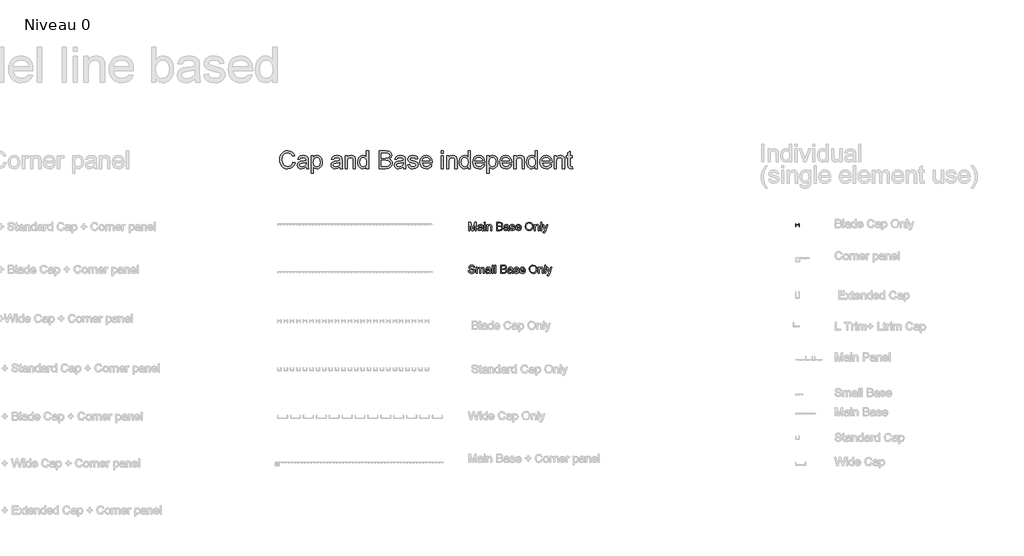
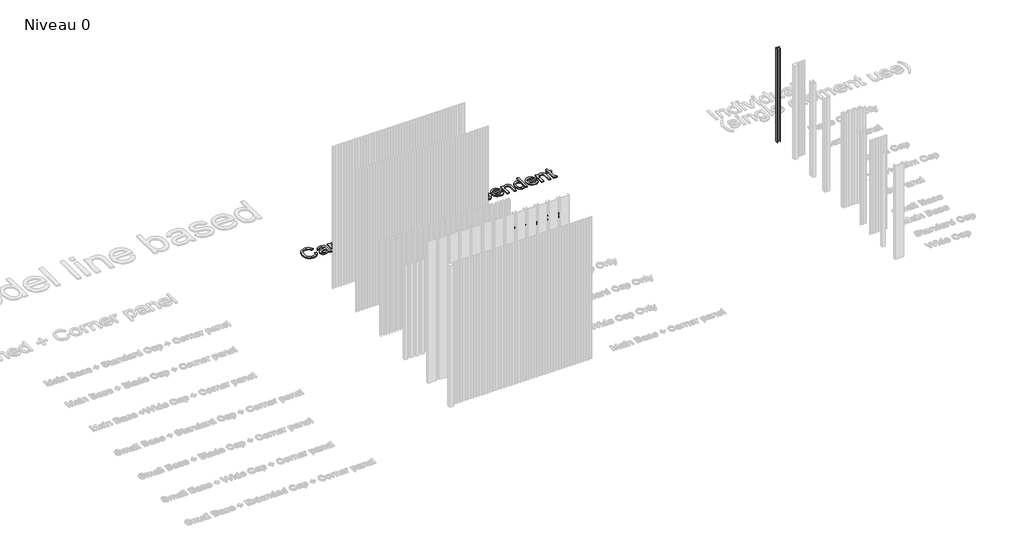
# One storey, part 24 of 25: 4 proxies.
"""IFC4 building model written with IfcOpenShell, lengths in millimetres."""

from ifc_helpers import new_model, si_unit, origin, origin_with_axes, place, context, project, spatial, polyline, outline, extrude, transform, mapped, element, save
from components import a_gen_blade_cap_a_gen_blade_cap_4d5c02d1

model = new_model("IFC4")

# Units and contexts
model_context = context("Model", 3, world=origin())
ifc_project = project(units=[si_unit("LENGTHUNIT", "METRE", prefix="MILLI")], contexts=[model_context])

# Site, building, storey
site = spatial("IfcSite", under=ifc_project)
building = spatial("IfcBuilding", under=site)
storey = spatial("IfcBuildingStorey", under=building, Name="Niveau 0", Elevation=0.0)

# Proxies
placement = place(None, origin())
element("IfcBuildingElementProxy", 1, Name="150 mm Arial", ObjectType="150 mm Arial", at=placement, inside=storey, context=model_context, shape_type="SweptSolid", body=[
    extrude(outline(polyline([(6899.092666, 5099.4454374), (6917.9282242, 5094.5893951), (6909.237012, 5072.6406355), (6895.5977871, 5056.6055791), (6877.6819339, 5046.7969254), (6856.1608372, 5043.5273741), (6834.3132452, 5046.0013806), (6816.9630106, 5053.4233998), (6803.6640765, 5065.5359145), (6793.9703859, 5082.0814072), (6788.0520843, 5101.5331677), (6786.0793171, 5122.3644857), (6788.3096017, 5144.3362379), (6795.0004555, 5163.3097518), (6805.8023906, 5178.6826207), (6820.3659191, 5189.8524377), (6837.6379787, 5196.6536561), (6856.5655074, 5198.9207289), (6877.2174829, 5195.98687), (6894.291806, 5187.1852933), (6907.2550478, 5173.0586246), (6915.5737794, 5154.1494901), (6896.7382213, 5149.6613298), (6890.2083158, 5163.3971238), (6881.2871775, 5172.8195014), (6869.8644415, 5178.2687534), (6855.8297434, 5180.0851708), (6839.6521327, 5178.0710168), (6826.3623956, 5172.0285551), (6816.2778304, 5162.5923819), (6809.7157353, 5150.3970937), (6804.9148753, 5122.4012739), (6806.3358195, 5105.0004555), (6810.5986521, 5089.9540819), (6817.8643215, 5077.8369687), (6828.2937761, 5069.2239315), (6840.7971654, 5064.0781821), (6854.284639, 5062.3629323), (6870.0069958, 5064.698983), (6883.1081933, 5071.707135), (6892.9996205, 5083.3138119), (6899.092666, 5099.4454374)])), origin_with_axes(), (0.0, 0.0, 1.0), 10.0),
    extrude(outline(polyline([(7012.1060149, 5060.0084875), (6993.8406739, 5047.2429823), (6973.6623465, 5043.5273741), (6957.9215956, 5045.7622573), (6946.3103201, 5052.4669066), (6939.1504168, 5062.6480408), (6936.7637823, 5075.3123785), (6940.3690259, 5090.2115993), (6949.8419873, 5101.02733), (6963.0305568, 5107.2077475), (6979.3277292, 5110.0404389), (7011.9956503, 5116.515162), (7012.1060149, 5120.7090167), (7010.8092309, 5129.1151203), (7006.9188788, 5134.6149562), (6998.2184696, 5138.6984463), (6986.0967579, 5140.0596097), (6967.0404705, 5136.435972), (6957.9537853, 5123.5784963), (6939.1182271, 5125.9329411), (6947.2668133, 5144.3270408), (6963.6743503, 5155.1059833), (6988.5247791, 5158.8951678), (7011.3518569, 5155.5474417), (7024.2461208, 5147.1413381), (7030.0218681, 5134.3574388), (7030.9415731, 5117.8763254), (7030.9415731, 5094.4422423), (7031.8980663, 5061.7191388), (7035.6504626, 5045.8818189), (7016.8149045, 5045.8818189), (7012.1060149, 5060.0084875)]), holes=[polyline([(7012.1060149, 5097.6796038), (6981.7189621, 5091.9038565), (6965.5137603, 5088.850436), (6958.1745145, 5083.884029), (6955.5993405, 5076.6367537), (6961.2095409, 5066.4464224), (6977.6722602, 5062.3629323), (6996.7285475, 5066.8694867), (7009.0158062, 5077.7771879), (7011.9956503, 5092.3453149), (7012.1060149, 5097.6796038)])]), origin_with_axes(), (0.0, 0.0, 1.0), 10.0),
    extrude(outline(polyline([(7056.8404656, 5003.5018131), (7056.8404656, 5156.5407231), (7075.6760237, 5156.5407231), (7075.6760237, 5138.0730469), (7088.6990463, 5153.6896376), (7106.2838057, 5158.8951678), (7119.0217198, 5157.074152), (7130.1593472, 5151.6111043), (7139.2276384, 5142.8371187), (7145.7575438, 5131.083289), (7151.0182563, 5102.0573996), (7149.5329328, 5085.9487667), (7145.0769621, 5071.5415881), (7137.7928986, 5059.5670291), (7127.8232965, 5050.7562554), (7116.2120211, 5045.3345944), (7104.0029373, 5043.5273741), (7087.6137945, 5048.3650224), (7075.6760237, 5060.5970987), (7075.6760237, 5003.5018131), (7056.8404656, 5003.5018131)]), holes=[polyline([(7075.6760237, 5100.3283542), (7077.7131703, 5083.4425706), (7083.8246099, 5071.6335586), (7092.8423173, 5064.6805889), (7103.5982671, 5062.3629323), (7114.5289609, 5064.7633623), (7123.7765946, 5071.9646524), (7130.0811723, 5084.2059258), (7132.1826982, 5101.7263058), (7130.1317561, 5118.5201189), (7123.9789297, 5130.4946778), (7114.9750178, 5137.6683767), (7104.3708193, 5140.0596097), (7093.7252341, 5137.5166254), (7084.3764329, 5129.8876725), (7077.851126, 5117.4118744), (7075.6760237, 5100.3283542)])]), origin_with_axes(), (0.0, 0.0, 1.0), 10.0),
    extrude(outline(polyline([(7301.7027216, 5060.0084875), (7283.4373805, 5047.2429823), (7263.2590531, 5043.5273741), (7247.5183022, 5045.7622573), (7235.9070267, 5052.4669066), (7228.7471234, 5062.6480408), (7226.3604889, 5075.3123785), (7229.9657325, 5090.2115993), (7239.4386939, 5101.02733), (7252.6272634, 5107.2077475), (7268.9244358, 5110.0404389), (7301.592357, 5116.515162), (7301.7027216, 5120.7090167), (7300.4059375, 5129.1151203), (7296.5155854, 5134.6149562), (7287.8151762, 5138.6984463), (7275.6934645, 5140.0596097), (7256.6371771, 5136.435972), (7247.5504919, 5123.5784963), (7228.7149337, 5125.9329411), (7236.8635199, 5144.3270408), (7253.2710569, 5155.1059833), (7278.1214857, 5158.8951678), (7300.9485635, 5155.5474417), (7313.8428274, 5147.1413381), (7319.6185747, 5134.3574388), (7320.5382797, 5117.8763254), (7320.5382797, 5094.4422423), (7321.4947729, 5061.7191388), (7325.2471692, 5045.8818189), (7306.4116111, 5045.8818189), (7301.7027216, 5060.0084875)]), holes=[polyline([(7301.7027216, 5097.6796038), (7271.3156687, 5091.9038565), (7255.1104669, 5088.850436), (7247.7712211, 5083.884029), (7245.1960471, 5076.6367537), (7250.8062475, 5066.4464224), (7267.2689668, 5062.3629323), (7286.3252542, 5066.8694867), (7298.6125128, 5077.7771879), (7301.592357, 5092.3453149), (7301.7027216, 5097.6796038)])]), origin_with_axes(), (0.0, 0.0, 1.0), 10.0),
    extrude(outline(polyline([(7346.4371722, 5045.8818189), (7346.4371722, 5156.5407231), (7365.2727303, 5156.5407231), (7365.2727303, 5141.0896793), (7379.6753104, 5154.4437957), (7399.3386031, 5158.8951678), (7417.1256975, 5155.3083184), (7429.2658034, 5145.8905393), (7434.912792, 5132.0397822), (7435.9060734, 5113.8296234), (7435.9060734, 5045.8818189), (7417.0705152, 5045.8818189), (7417.0705152, 5111.2912377), (7414.9000115, 5127.956292), (7407.2296719, 5136.7670658), (7394.2986197, 5140.0596097), (7383.2667584, 5138.2110027), (7373.8627749, 5132.6651816), (7367.4202415, 5121.9506185), (7365.2727303, 5104.5957853), (7365.2727303, 5045.8818189), (7346.4371722, 5045.8818189)])), origin_with_axes(), (0.0, 0.0, 1.0), 10.0),
    extrude(outline(polyline([(7530.0838642, 5045.8818189), (7530.0838642, 5063.6505193), (7517.6218616, 5048.5581604), (7500.3957871, 5043.5273741), (7488.2188931, 5045.34839), (7477.0720687, 5050.8114377), (7467.6358955, 5059.5348395), (7460.5909553, 5071.1369179), (7456.2039625, 5085.1486234), (7454.7416315, 5101.1009064), (7460.1311028, 5131.083289), (7466.8633433, 5142.9750745), (7476.2811224, 5151.7214689), (7487.6716686, 5157.1017431), (7500.3222107, 5158.8951678), (7517.6862409, 5153.763214), (7530.0838642, 5140.4274917), (7530.0838642, 5196.5662841), (7548.9194223, 5196.5662841), (7548.9194223, 5045.8818189), (7530.0838642, 5045.8818189)]), holes=[polyline([(7473.5771897, 5101.1744828), (7475.7017082, 5084.1369479), (7482.0752638, 5072.0198347), (7491.336693, 5064.7771579), (7502.1248325, 5062.3629323), (7512.9083735, 5064.6667933), (7521.935278, 5071.5783763), (7528.0467176, 5083.22644), (7530.0838642, 5099.739743), (7528.0099294, 5117.7935519), (7521.7881252, 5130.3107368), (7512.5312945, 5137.6223915), (7501.3522803, 5140.0596097), (7490.4537762, 5137.7189605), (7481.5234408, 5130.6970129), (7475.5637525, 5118.635082), (7473.5771897, 5101.1744828)])]), origin_with_axes(), (0.0, 0.0, 1.0), 10.0),
    extrude(outline(polyline([(7638.3883235, 5045.8818189), (7638.3883235, 5196.5662841), (7695.8882794, 5196.5662841), (7724.0496461, 5192.1333061), (7733.5134104, 5186.5093101), (7740.6779123, 5178.5032782), (7746.6927829, 5159.2262616), (7741.6344055, 5141.6231082), (7726.3489086, 5128.2873858), (7737.022085, 5122.7139736), (7744.9085552, 5114.2342936), (7749.7783932, 5103.4093659), (7751.4016725, 5090.8002105), (7746.9686944, 5070.5483067), (7735.9874169, 5056.1273325), (7719.598274, 5048.475387), (7695.446821, 5045.8818189), (7638.3883235, 5045.8818189)]), holes=[polyline([(7657.2238817, 5064.7173771), (7695.8514912, 5064.7173771), (7709.831007, 5065.4531411), (7721.6584131, 5069.5550253), (7729.4942996, 5077.9243407), (7732.5661143, 5090.6162695), (7728.9608707, 5105.2579729), (7717.2806174, 5113.9951703), (7694.0120812, 5116.515162), (7657.2238817, 5116.515162), (7657.2238817, 5064.7173771)]), polyline([(7657.2238817, 5135.3507201), (7691.6208482, 5135.3507201), (7711.7072052, 5136.9694009), (7723.7921287, 5143.9407647), (7727.8572248, 5156.2096293), (7724.0680402, 5168.4968879), (7713.2155214, 5175.7625573), (7689.0088861, 5177.730726), (7657.2238817, 5177.730726), (7657.2238817, 5135.3507201)])]), origin_with_axes(), (0.0, 0.0, 1.0), 10.0),
    extrude(outline(polyline([(7845.5794632, 5060.0084875), (7827.3141222, 5047.2429823), (7807.1357947, 5043.5273741), (7791.3950439, 5045.7622573), (7779.7837684, 5052.4669066), (7772.6238651, 5062.6480408), (7770.2372306, 5075.3123785), (7773.8424742, 5090.2115993), (7783.3154355, 5101.02733), (7796.5040051, 5107.2077475), (7812.8011775, 5110.0404389), (7845.4690986, 5116.515162), (7845.5794632, 5120.7090167), (7844.2826792, 5129.1151203), (7840.3923271, 5134.6149562), (7831.6919179, 5138.6984463), (7819.5702062, 5140.0596097), (7800.5139188, 5136.435972), (7791.4272335, 5123.5784963), (7772.5916754, 5125.9329411), (7780.7402616, 5144.3270408), (7797.1477986, 5155.1059833), (7821.9982273, 5158.8951678), (7844.8253051, 5155.5474417), (7857.7195691, 5147.1413381), (7863.4953164, 5134.3574388), (7864.4150214, 5117.8763254), (7864.4150214, 5094.4422423), (7865.3715146, 5061.7191388), (7869.1239109, 5045.8818189), (7850.2883528, 5045.8818189), (7845.5794632, 5060.0084875)]), holes=[polyline([(7845.5794632, 5097.6796038), (7815.1924104, 5091.9038565), (7798.9872085, 5088.850436), (7791.6479627, 5083.884029), (7789.0727888, 5076.6367537), (7794.6829892, 5066.4464224), (7811.1457085, 5062.3629323), (7830.2019958, 5066.8694867), (7842.4892545, 5077.7771879), (7845.4690986, 5092.3453149), (7845.5794632, 5097.6796038)])]), origin_with_axes(), (0.0, 0.0, 1.0), 10.0),
    extrude(outline(polyline([(7883.2505795, 5078.8440457), (7902.0861377, 5081.1984905), (7905.0567848, 5073.1418748), (7910.804941, 5067.2189746), (7930.7809333, 5062.3629323), (7949.9843735, 5066.8143044), (7956.2383674, 5077.2621531), (7954.6656718, 5082.0630131), (7949.9475853, 5085.723439), (7930.5602041, 5091.0945161), (7902.1965023, 5100.3099601), (7889.8172731, 5111.0705085), (7885.6050243, 5126.2640349), (7888.9895387, 5140.298733), (7898.2233767, 5151.0224931), (7910.1979357, 5156.5959054), (7926.4031376, 5158.8951678), (7949.3221859, 5155.1979538), (7963.8903129, 5145.1915635), (7970.365036, 5128.2873858), (7951.5294778, 5125.9329411), (7944.4477494, 5136.3256074), (7927.8746655, 5140.0596097), (7909.8484478, 5136.4911543), (7904.4405824, 5128.1770212), (7906.6846626, 5122.6955795), (7913.7112087, 5118.538513), (7929.9348047, 5114.5285992), (7957.5811367, 5105.6626431), (7970.4202183, 5095.6194647), (7975.0739255, 5079.2487159), (7969.6108779, 5061.2224981), (7953.8471344, 5048.1442932), (7930.5234159, 5043.5273741), (7911.5315079, 5045.7530602), (7897.6715537, 5052.4301184), (7888.4193216, 5063.4849724), (7883.2505795, 5078.8440457)])), origin_with_axes(), (0.0, 0.0, 1.0), 10.0),
    extrude(outline(polyline([(8073.7398766, 5078.8440457), (8092.2075528, 5076.4896009), (8085.5534872, 5062.5744644), (8074.9354931, 5052.172601), (8060.5926938, 5045.6886809), (8042.7642126, 5043.5273741), (8020.6637018, 5047.2567779), (8003.6583565, 5058.4449891), (7992.8150347, 5076.3654407), (7989.2005941, 5100.291566), (7992.8518229, 5125.0224331), (8003.8055093, 5143.5177004), (8020.5809283, 5155.050801), (8041.6973548, 5158.8951678), (8062.1561923, 5155.059998), (8078.5039485, 5143.5544886), (8089.2231101, 5125.0960095), (8092.796164, 5100.4019306), (8092.6857994, 5095.3251591), (8008.0361523, 5095.3251591), (8011.2965065, 5081.2260816), (8018.870277, 5070.8610064), (8029.8009708, 5064.4874508), (8043.1320946, 5062.3629323), (8061.5997708, 5066.2992696), (8073.7398766, 5078.8440457)]), holes=[polyline([(8008.0361523, 5114.1607172), (8073.9606058, 5114.1607172), (8071.413023, 5124.1119252), (8066.4190249, 5131.2304418), (8055.4377474, 5137.8523177), (8041.6237785, 5140.0596097), (8028.9272511, 5138.2983746), (8018.4288187, 5133.0146695), (8011.1309596, 5124.7787113), (8008.0361523, 5114.1607172)])]), origin_with_axes(), (0.0, 0.0, 1.0), 10.0),
    extrude(outline(polyline([(8170.4928414, 5045.8818189), (8170.4928414, 5156.5407231), (8189.3283995, 5156.5407231), (8189.3283995, 5045.8818189), (8170.4928414, 5045.8818189)])), origin_with_axes(), (0.0, 0.0, 1.0), 10.0),
    extrude(outline(polyline([(8170.4928414, 5177.730726), (8170.4928414, 5196.5662841), (8189.3283995, 5196.5662841), (8189.3283995, 5177.730726), (8170.4928414, 5177.730726)])), origin_with_axes(), (0.0, 0.0, 1.0), 10.0),
    extrude(outline(polyline([(8217.5817367, 5045.8818189), (8217.5817367, 5156.5407231), (8236.4172949, 5156.5407231), (8236.4172949, 5141.0896793), (8250.819875, 5154.4437957), (8270.4831676, 5158.8951678), (8288.2702621, 5155.3083184), (8300.410368, 5145.8905393), (8306.0573566, 5132.0397822), (8307.050638, 5113.8296234), (8307.050638, 5045.8818189), (8288.2150798, 5045.8818189), (8288.2150798, 5111.2912377), (8286.044576, 5127.956292), (8278.3742364, 5136.7670658), (8265.4431843, 5140.0596097), (8254.411323, 5138.2110027), (8245.0073395, 5132.6651816), (8238.564806, 5121.9506185), (8236.4172949, 5104.5957853), (8236.4172949, 5045.8818189), (8217.5817367, 5045.8818189)])), origin_with_axes(), (0.0, 0.0, 1.0), 10.0),
    extrude(outline(polyline([(8401.2284287, 5045.8818189), (8401.2284287, 5063.6505193), (8388.7664261, 5048.5581604), (8371.5403517, 5043.5273741), (8359.3634577, 5045.34839), (8348.2166332, 5050.8114377), (8338.7804601, 5059.5348395), (8331.7355198, 5071.1369179), (8327.3485271, 5085.1486234), (8325.8861961, 5101.1009064), (8331.2756674, 5131.083289), (8338.0079079, 5142.9750745), (8347.4256869, 5151.7214689), (8358.8162332, 5157.1017431), (8371.4667753, 5158.8951678), (8388.8308055, 5153.763214), (8401.2284287, 5140.4274917), (8401.2284287, 5196.5662841), (8420.0639869, 5196.5662841), (8420.0639869, 5045.8818189), (8401.2284287, 5045.8818189)]), holes=[polyline([(8344.7217543, 5101.1744828), (8346.8462728, 5084.1369479), (8353.2198284, 5072.0198347), (8362.4812576, 5064.7771579), (8373.2693971, 5062.3629323), (8384.0529381, 5064.6667933), (8393.0798425, 5071.5783763), (8399.1912822, 5083.22644), (8401.2284287, 5099.739743), (8399.154494, 5117.7935519), (8392.9326897, 5130.3107368), (8383.675859, 5137.6223915), (8372.4968449, 5140.0596097), (8361.5983408, 5137.7189605), (8352.6680054, 5130.6970129), (8346.7083171, 5118.635082), (8344.7217543, 5101.1744828)])]), origin_with_axes(), (0.0, 0.0, 1.0), 10.0),
    extrude(outline(polyline([(8525.7932723, 5078.8440457), (8544.2609485, 5076.4896009), (8537.6068829, 5062.5744644), (8526.9888888, 5052.172601), (8512.6460895, 5045.6886809), (8494.8176083, 5043.5273741), (8472.7170974, 5047.2567779), (8455.7117522, 5058.4449891), (8444.8684304, 5076.3654407), (8441.2539898, 5100.291566), (8444.9052186, 5125.0224331), (8455.858905, 5143.5177004), (8472.634324, 5155.050801), (8493.7507505, 5158.8951678), (8514.209588, 5155.059998), (8530.5573441, 5143.5544886), (8541.2765058, 5125.0960095), (8544.8495597, 5100.4019306), (8544.7391951, 5095.3251591), (8460.089548, 5095.3251591), (8463.3499021, 5081.2260816), (8470.9236727, 5070.8610064), (8481.8543665, 5064.4874508), (8495.1854903, 5062.3629323), (8513.6531665, 5066.2992696), (8525.7932723, 5078.8440457)]), holes=[polyline([(8460.089548, 5114.1607172), (8526.0140015, 5114.1607172), (8523.4664187, 5124.1119252), (8518.4724206, 5131.2304418), (8507.491143, 5137.8523177), (8493.6771741, 5140.0596097), (8480.9806468, 5138.2983746), (8470.4822143, 5133.0146695), (8463.1843552, 5124.7787113), (8460.089548, 5114.1607172)])]), origin_with_axes(), (0.0, 0.0, 1.0), 10.0),
    extrude(outline(polyline([(8563.6851178, 5003.5018131), (8563.6851178, 5156.5407231), (8582.520676, 5156.5407231), (8582.520676, 5138.0730469), (8595.5436986, 5153.6896376), (8613.128458, 5158.8951678), (8625.866372, 5157.074152), (8637.0039994, 5151.6111043), (8646.0722906, 5142.8371187), (8652.602196, 5131.083289), (8657.8629086, 5102.0573996), (8656.377585, 5085.9487667), (8651.9216143, 5071.5415881), (8644.6375508, 5059.5670291), (8634.6679488, 5050.7562554), (8623.0566733, 5045.3345944), (8610.8475896, 5043.5273741), (8594.4584467, 5048.3650224), (8582.520676, 5060.5970987), (8582.520676, 5003.5018131), (8563.6851178, 5003.5018131)]), holes=[polyline([(8582.520676, 5100.3283542), (8584.5578225, 5083.4425706), (8590.6692622, 5071.6335586), (8599.6869696, 5064.6805889), (8610.4429194, 5062.3629323), (8621.3736132, 5064.7633623), (8630.6212468, 5071.9646524), (8636.9258245, 5084.2059258), (8639.0273504, 5101.7263058), (8636.9764083, 5118.5201189), (8630.8235819, 5130.4946778), (8621.8196701, 5137.6683767), (8611.2154716, 5140.0596097), (8600.5698863, 5137.5166254), (8591.2210851, 5129.8876725), (8584.6957783, 5117.4118744), (8582.520676, 5100.3283542)])]), origin_with_axes(), (0.0, 0.0, 1.0), 10.0),
    extrude(outline(polyline([(8756.5288597, 5078.8440457), (8774.9965358, 5076.4896009), (8768.3424702, 5062.5744644), (8757.7244762, 5052.172601), (8743.3816769, 5045.6886809), (8725.5531957, 5043.5273741), (8703.4526848, 5047.2567779), (8686.4473396, 5058.4449891), (8675.6040178, 5076.3654407), (8671.9895772, 5100.291566), (8675.640806, 5125.0224331), (8686.5944924, 5143.5177004), (8703.3699114, 5155.050801), (8724.4863379, 5158.8951678), (8744.9451754, 5155.059998), (8761.2929315, 5143.5544886), (8772.0120931, 5125.0960095), (8775.585147, 5100.4019306), (8775.4747824, 5095.3251591), (8690.8251353, 5095.3251591), (8694.0854895, 5081.2260816), (8701.6592601, 5070.8610064), (8712.5899539, 5064.4874508), (8725.9210777, 5062.3629323), (8744.3887538, 5066.2992696), (8756.5288597, 5078.8440457)]), holes=[polyline([(8690.8251353, 5114.1607172), (8756.7495889, 5114.1607172), (8754.2020061, 5124.1119252), (8749.208008, 5131.2304418), (8738.2267304, 5137.8523177), (8724.4127615, 5140.0596097), (8711.7162341, 5138.2983746), (8701.2178017, 5133.0146695), (8693.9199426, 5124.7787113), (8690.8251353, 5114.1607172)])]), origin_with_axes(), (0.0, 0.0, 1.0), 10.0),
    extrude(outline(polyline([(8794.4207052, 5045.8818189), (8794.4207052, 5156.5407231), (8813.2562633, 5156.5407231), (8813.2562633, 5141.0896793), (8827.6588434, 5154.4437957), (8847.3221361, 5158.8951678), (8865.1092306, 5155.3083184), (8877.2493364, 5145.8905393), (8882.896325, 5132.0397822), (8883.8896064, 5113.8296234), (8883.8896064, 5045.8818189), (8865.0540483, 5045.8818189), (8865.0540483, 5111.2912377), (8862.8835445, 5127.956292), (8855.2132049, 5136.7670658), (8842.2821528, 5140.0596097), (8831.2502914, 5138.2110027), (8821.8463079, 5132.6651816), (8815.4037745, 5121.9506185), (8813.2562633, 5104.5957853), (8813.2562633, 5045.8818189), (8794.4207052, 5045.8818189)])), origin_with_axes(), (0.0, 0.0, 1.0), 10.0),
    extrude(outline(polyline([(8978.0673972, 5045.8818189), (8978.0673972, 5063.6505193), (8965.6053946, 5048.5581604), (8948.3793202, 5043.5273741), (8936.2024261, 5045.34839), (8925.0556017, 5050.8114377), (8915.6194285, 5059.5348395), (8908.5744883, 5071.1369179), (8904.1874955, 5085.1486234), (8902.7251646, 5101.1009064), (8908.1146358, 5131.083289), (8914.8468763, 5142.9750745), (8924.2646554, 5151.7214689), (8935.6552017, 5157.1017431), (8948.3057438, 5158.8951678), (8965.6697739, 5153.763214), (8978.0673972, 5140.4274917), (8978.0673972, 5196.5662841), (8996.9029553, 5196.5662841), (8996.9029553, 5045.8818189), (8978.0673972, 5045.8818189)]), holes=[polyline([(8921.5607227, 5101.1744828), (8923.6852412, 5084.1369479), (8930.0587968, 5072.0198347), (8939.320226, 5064.7771579), (8950.1083655, 5062.3629323), (8960.8919065, 5064.6667933), (8969.918811, 5071.5783763), (8976.0302506, 5083.22644), (8978.0673972, 5099.739743), (8975.9934624, 5117.7935519), (8969.7716582, 5130.3107368), (8960.5148275, 5137.6223915), (8949.3358133, 5140.0596097), (8938.4373092, 5137.7189605), (8929.5069738, 5130.6970129), (8923.5472855, 5118.635082), (8921.5607227, 5101.1744828)])]), origin_with_axes(), (0.0, 0.0, 1.0), 10.0),
    extrude(outline(polyline([(9102.6322407, 5078.8440457), (9121.0999169, 5076.4896009), (9114.4458513, 5062.5744644), (9103.8278572, 5052.172601), (9089.4850579, 5045.6886809), (9071.6565767, 5043.5273741), (9049.5560659, 5047.2567779), (9032.5507207, 5058.4449891), (9021.7073989, 5076.3654407), (9018.0929582, 5100.291566), (9021.744187, 5125.0224331), (9032.6978735, 5143.5177004), (9049.4732924, 5155.050801), (9070.589719, 5158.8951678), (9091.0485564, 5155.059998), (9107.3963126, 5143.5544886), (9118.1154742, 5125.0960095), (9121.6885281, 5100.4019306), (9121.5781635, 5095.3251591), (9036.9285164, 5095.3251591), (9040.1888706, 5081.2260816), (9047.7626412, 5070.8610064), (9058.6933349, 5064.4874508), (9072.0244587, 5062.3629323), (9090.4921349, 5066.2992696), (9102.6322407, 5078.8440457)]), holes=[polyline([(9036.9285164, 5114.1607172), (9102.8529699, 5114.1607172), (9100.3053871, 5124.1119252), (9095.311389, 5131.2304418), (9084.3301115, 5137.8523177), (9070.5161426, 5140.0596097), (9057.8196152, 5138.2983746), (9047.3211828, 5133.0146695), (9040.0233237, 5124.7787113), (9036.9285164, 5114.1607172)])]), origin_with_axes(), (0.0, 0.0, 1.0), 10.0),
    extrude(outline(polyline([(9140.5240862, 5045.8818189), (9140.5240862, 5156.5407231), (9159.3596444, 5156.5407231), (9159.3596444, 5141.0896793), (9173.7622245, 5154.4437957), (9193.4255171, 5158.8951678), (9211.2126116, 5155.3083184), (9223.3527175, 5145.8905393), (9228.9997061, 5132.0397822), (9229.9929875, 5113.8296234), (9229.9929875, 5045.8818189), (9211.1574293, 5045.8818189), (9211.1574293, 5111.2912377), (9208.9869255, 5127.956292), (9201.3165859, 5136.7670658), (9188.3855338, 5140.0596097), (9177.3536725, 5138.2110027), (9167.949689, 5132.6651816), (9161.5071555, 5121.9506185), (9159.3596444, 5104.5957853), (9159.3596444, 5045.8818189), (9140.5240862, 5045.8818189)])), origin_with_axes(), (0.0, 0.0, 1.0), 10.0),
    extrude(outline(polyline([(9295.917441, 5061.5903801), (9298.2718858, 5045.3299959), (9284.1820054, 5043.5273741), (9268.3998678, 5046.6543711), (9260.5271931, 5054.8581396), (9258.2463247, 5076.2320835), (9258.2463247, 5137.7051649), (9244.1196561, 5137.7051649), (9244.1196561, 5156.5407231), (9258.2463247, 5156.5407231), (9258.2463247, 5183.4328969), (9277.0818829, 5194.506145), (9277.0818829, 5156.5407231), (9295.917441, 5156.5407231), (9295.917441, 5137.7051649), (9277.0818829, 5137.7051649), (9277.0818829, 5076.7839065), (9278.0751642, 5067.0718218), (9281.2941317, 5063.6321252), (9287.7136725, 5062.3629323), (9295.917441, 5061.5903801)])), origin_with_axes(), (0.0, 0.0, 1.0), 10.0),
])
element("IfcBuildingElementProxy", 2, Name="70mm Arial", ObjectType="70mm Arial", at=placement, inside=storey, context=model_context, shape_type="SweptSolid", body=[
    extrude(outline(polyline([(8408.5230743, 4513.9134613), (8408.5230743, 4584.2328784), (8423.6479294, 4584.2328784), (8438.034568, 4534.6693635), (8440.9359307, 4524.3171642), (8444.0776429, 4535.5277548), (8458.2239319, 4584.2328784), (8473.348787, 4584.2328784), (8473.348787, 4513.9134613), (8464.5588598, 4513.9134613), (8464.5588598, 4575.4429513), (8446.8931664, 4513.9134613), (8434.9786949, 4513.9134613), (8417.3130015, 4575.4429513), (8417.3130015, 4513.9134613), (8408.5230743, 4513.9134613)])), origin_with_axes(), (0.0, 0.0, 1.0), 10.0),
    extrude(outline(polyline([(8520.5946453, 4520.5059067), (8512.0708195, 4514.5486709), (8502.6542667, 4512.8147204), (8489.8899878, 4516.9865023), (8485.4349368, 4527.6477225), (8487.1173838, 4534.6006922), (8491.5380991, 4539.6480332), (8497.6927649, 4542.532228), (8505.298112, 4543.8541506), (8520.5431419, 4546.8756881), (8520.5946453, 4548.8328203), (8518.1739818, 4555.3222587), (8508.456992, 4557.863097), (8499.564058, 4556.1720661), (8495.3236048, 4550.1719108), (8486.5336777, 4551.2706517), (8490.3363512, 4559.8545649), (8497.9932018, 4564.884738), (8509.5900686, 4566.6530242), (8520.2427049, 4565.090752), (8526.2600281, 4561.1679036), (8528.9553768, 4555.2020839), (8529.3845725, 4547.5108977), (8529.3845725, 4536.5749922), (8529.830936, 4521.3042106), (8531.5820543, 4513.9134613), (8522.7921271, 4513.9134613), (8520.5946453, 4520.5059067)]), holes=[polyline([(8520.5946453, 4538.085761), (8506.4140207, 4535.3904122), (8498.8515932, 4533.9654826), (8495.4266118, 4531.647826), (8494.2248639, 4528.2657642), (8496.8429575, 4523.5102763), (8504.5255598, 4521.6046476), (8513.4184939, 4523.7077063), (8519.1525479, 4528.7979669), (8520.5431419, 4535.5964261), (8520.5946453, 4538.085761)])]), origin_with_axes(), (0.0, 0.0, 1.0), 10.0),
    extrude(outline(polyline([(8541.4707223, 4513.9134613), (8541.4707223, 4565.5542833), (8550.2606494, 4565.5542833), (8550.2606494, 4513.9134613), (8541.4707223, 4513.9134613)])), origin_with_axes(), (0.0, 0.0, 1.0), 10.0),
    extrude(outline(polyline([(8541.4707223, 4575.4429513), (8541.4707223, 4584.2328784), (8550.2606494, 4584.2328784), (8550.2606494, 4575.4429513), (8541.4707223, 4575.4429513)])), origin_with_axes(), (0.0, 0.0, 1.0), 10.0),
    extrude(outline(polyline([(8563.4455401, 4513.9134613), (8563.4455401, 4565.5542833), (8572.2354673, 4565.5542833), (8572.2354673, 4558.3437962), (8578.9566713, 4564.5757172), (8588.1328746, 4566.6530242), (8596.4335186, 4564.9791611), (8602.0989014, 4560.5841975), (8604.7341627, 4554.1205109), (8605.197694, 4545.6224368), (8605.197694, 4513.9134613), (8596.4077669, 4513.9134613), (8596.4077669, 4544.4378567), (8595.3948651, 4552.2148821), (8591.8153733, 4556.3265766), (8585.7808823, 4557.863097), (8576.2441548, 4554.4123639), (8572.2354673, 4541.3133123), (8572.2354673, 4513.9134613), (8563.4455401, 4513.9134613)])), origin_with_axes(), (0.0, 0.0, 1.0), 10.0),
    extrude(outline(polyline([(8645.8511071, 4513.9134613), (8645.8511071, 4584.2328784), (8672.6844198, 4584.2328784), (8685.8263909, 4582.1641554), (8693.5862485, 4575.8034757), (8696.3931881, 4566.8075346), (8694.032612, 4558.5927296), (8686.8993801, 4552.3693926), (8695.5605485, 4545.8112829), (8698.5906699, 4534.8753774), (8696.5219468, 4525.424489), (8691.3973506, 4518.694701), (8683.7490839, 4515.1237931), (8672.4784059, 4513.9134613), (8645.8511071, 4513.9134613)]), holes=[polyline([(8654.6410342, 4555.6656152), (8670.6929519, 4555.6656152), (8680.0665852, 4556.4209996), (8685.7062161, 4559.6743027), (8687.603261, 4565.3997728), (8685.8349748, 4571.1338269), (8680.770466, 4574.5244726), (8669.4740362, 4575.4429513), (8654.6410342, 4575.4429513), (8654.6410342, 4555.6656152)]), polyline([(8654.6410342, 4522.7033885), (8672.667252, 4522.7033885), (8679.191026, 4523.046745), (8684.7104822, 4524.9609576), (8688.3672292, 4528.8666382), (8689.8007428, 4534.7895383), (8688.1182958, 4541.6223332), (8682.6675109, 4545.699692), (8671.8088606, 4546.8756881), (8654.6410342, 4546.8756881), (8654.6410342, 4522.7033885)])]), origin_with_axes(), (0.0, 0.0, 1.0), 10.0),
    extrude(outline(polyline([(8742.5403056, 4520.5059067), (8734.0164798, 4514.5486709), (8724.5999269, 4512.8147204), (8711.835648, 4516.9865023), (8707.380597, 4527.6477225), (8709.063044, 4534.6006922), (8713.4837593, 4539.6480332), (8719.6384251, 4542.532228), (8727.2437722, 4543.8541506), (8742.4888021, 4546.8756881), (8742.5403056, 4548.8328203), (8740.1196421, 4555.3222587), (8730.4026523, 4557.863097), (8721.5097182, 4556.1720661), (8717.2692651, 4550.1719108), (8708.4793379, 4551.2706517), (8712.2820115, 4559.8545649), (8719.9388621, 4564.884738), (8731.5357288, 4566.6530242), (8742.1883651, 4565.090752), (8748.2056883, 4561.1679036), (8750.9010371, 4555.2020839), (8751.3302327, 4547.5108977), (8751.3302327, 4536.5749922), (8751.7765962, 4521.3042106), (8753.5277145, 4513.9134613), (8744.7377874, 4513.9134613), (8742.5403056, 4520.5059067)]), holes=[polyline([(8742.5403056, 4538.085761), (8728.3596809, 4535.3904122), (8720.7972534, 4533.9654826), (8717.372272, 4531.647826), (8716.1705242, 4528.2657642), (8718.7886177, 4523.5102763), (8726.47122, 4521.6046476), (8735.3641541, 4523.7077063), (8741.0982082, 4528.7979669), (8742.4888021, 4535.5964261), (8742.5403056, 4538.085761)])]), origin_with_axes(), (0.0, 0.0, 1.0), 10.0),
    extrude(outline(polyline([(8760.1201599, 4529.2958338), (8768.910087, 4530.3945747), (8772.9788619, 4523.8708007), (8782.3009916, 4521.6046476), (8791.262597, 4523.6819546), (8794.1811275, 4528.5576173), (8791.2454292, 4532.5062174), (8782.1979847, 4535.01272), (8768.9615905, 4539.3132606), (8763.1846169, 4544.3348498), (8761.2189007, 4551.4251621), (8762.7983408, 4557.9746879), (8767.1074652, 4562.9791093), (8772.6955927, 4565.580035), (8780.2580203, 4566.6530242), (8790.9535761, 4564.9276576), (8797.7520354, 4560.2580088), (8800.7735729, 4552.3693926), (8791.9836457, 4551.2706517), (8788.6788391, 4556.1205626), (8780.9447333, 4557.863097), (8772.5324984, 4556.1978179), (8770.0088279, 4552.3178891), (8771.0560653, 4549.7598829), (8774.3351201, 4547.8199186), (8781.9061316, 4545.9486255), (8794.8077532, 4541.8111793), (8800.7993246, 4537.1243627), (8802.9710547, 4529.4846799), (8800.4216324, 4521.072445), (8793.0652188, 4514.9692827), (8782.1808168, 4512.8147204), (8766.8499478, 4516.9693344), (8760.1201599, 4529.2958338)])), origin_with_axes(), (0.0, 0.0, 1.0), 10.0),
    extrude(outline(polyline([(8849.0151652, 4529.2958338), (8857.633414, 4528.1970929), (8849.5731195, 4516.8491597), (8834.5598553, 4512.8147204), (8824.2462836, 4514.5551088), (8816.3104558, 4519.7762741), (8811.250239, 4528.1391515), (8809.5635, 4539.3046766), (8811.2674068, 4550.845748), (8816.3791271, 4559.4768727), (8824.207656, 4564.8589863), (8834.0619883, 4566.6530242), (8843.6094458, 4564.8632783), (8851.2383987, 4559.4940405), (8856.2406741, 4550.8800836), (8857.9080993, 4539.3561801), (8857.8565958, 4536.9870201), (8818.3534271, 4536.9870201), (8823.409352, 4525.5704155), (8834.7315336, 4521.6046476), (8843.3497824, 4523.441605), (8849.0151652, 4529.2958338)]), holes=[polyline([(8818.3534271, 4545.7769472), (8849.1181721, 4545.7769472), (8845.5987677, 4553.7428187), (8834.0276527, 4557.863097), (8823.2033381, 4554.5754583), (8818.3534271, 4545.7769472)])]), origin_with_axes(), (0.0, 0.0, 1.0), 10.0),
    extrude(outline(polyline([(8891.9690669, 4548.1461073), (8894.3124752, 4563.6958661), (8901.3427002, 4575.4601191), (8912.0768836, 4582.8637443), (8925.5321676, 4585.3316193), (8943.0261828, 4580.6963062), (8954.9063187, 4567.7689329), (8958.9922614, 4548.9529951), (8954.6917208, 4529.8795399), (8942.5025641, 4517.1410127), (8925.4806641, 4512.8147204), (8907.7978029, 4517.5959601), (8895.9863383, 4530.6435082), (8891.9690669, 4548.1461073)]), holes=[polyline([(8900.7589941, 4548.0602681), (8902.5165503, 4537.0599833), (8907.789219, 4528.6777921), (8915.7143169, 4523.3729337), (8925.4291607, 4521.6046476), (8935.285639, 4523.3901015), (8943.2236128, 4528.7464634), (8948.4576539, 4537.386172), (8950.2023342, 4549.0216664), (8947.2151324, 4563.5284797), (8938.4852927, 4573.1338786), (8925.5836711, 4576.5416922), (8916.1284907, 4574.9000188), (8908.089656, 4569.9749986), (8902.5916595, 4561.2129692), (8900.7589941, 4548.0602681)])]), origin_with_axes(), (0.0, 0.0, 1.0), 10.0),
    extrude(outline(polyline([(8969.9796703, 4513.9134613), (8969.9796703, 4565.5542833), (8978.7695974, 4565.5542833), (8978.7695974, 4558.3437962), (8985.4908015, 4564.5757172), (8994.6670047, 4566.6530242), (9002.9676488, 4564.9791611), (9008.6330315, 4560.5841975), (9011.2682929, 4554.1205109), (9011.7318242, 4545.6224368), (9011.7318242, 4513.9134613), (9002.941897, 4513.9134613), (9002.941897, 4544.4378567), (9001.9289953, 4552.2148821), (8998.3495035, 4556.3265766), (8992.3150125, 4557.863097), (8982.7782849, 4554.4123639), (8978.7695974, 4541.3133123), (8978.7695974, 4513.9134613), (8969.9796703, 4513.9134613)])), origin_with_axes(), (0.0, 0.0, 1.0), 10.0),
    extrude(outline(polyline([(9023.817974, 4513.9134613), (9023.817974, 4584.2328784), (9032.6079011, 4584.2328784), (9032.6079011, 4513.9134613), (9023.817974, 4513.9134613)])), origin_with_axes(), (0.0, 0.0, 1.0), 10.0),
    extrude(outline(polyline([(9045.7927918, 4494.1361253), (9044.694051, 4502.5998637), (9049.1576858, 4501.8273115), (9053.3294677, 4502.7972937), (9055.8874738, 4505.5012264), (9058.2909695, 4511.9734969), (9058.9776826, 4514.1023074), (9040.2990874, 4565.5542833), (9049.5697137, 4565.5542833), (9059.4755495, 4536.8840131), (9062.9262826, 4525.415905), (9066.3770157, 4535.5449226), (9076.5575368, 4565.5542833), (9085.7594918, 4565.5542833), (9067.7847775, 4512.6773778), (9063.1151287, 4501.2092698), (9058.0162843, 4495.0116844), (9051.1663215, 4493.0373844), (9045.7927918, 4494.1361253)])), origin_with_axes(), (0.0, 0.0, 1.0), 10.0),
])
element("IfcBuildingElementProxy", 3, Name="70mm Arial", ObjectType="70mm Arial", at=placement, inside=storey, context=model_context, shape_type="SweptSolid", body=[
    extrude(outline(polyline([(8405.2268517, 4170.7963112), (8414.0167788, 4170.7963112), (8416.8494702, 4161.9978001), (8423.7681042, 4156.4354244), (8434.3091496, 4154.3151978), (8443.4939368, 4155.9203896), (8449.4254208, 4160.332521), (8451.3739691, 4166.2296694), (8449.9147039, 4171.7147899), (8443.9403003, 4175.7063096), (8431.1416857, 4179.0626196), (8417.3645049, 4183.3974958), (8409.8879165, 4189.9384377), (8407.4243334, 4198.6768613), (8410.4716226, 4208.6256168), (8419.3731406, 4215.6472578), (8432.4035209, 4218.0421696), (8446.3094603, 4215.5356669), (8455.5800866, 4208.1706694), (8459.0651554, 4197.1660926), (8450.2752282, 4197.1660926), (8445.2965586, 4206.1963693), (8432.7468774, 4209.2522424), (8420.1628607, 4206.230705), (8416.2142606, 4198.9343787), (8419.0126163, 4192.8398003), (8433.3649192, 4187.929802), (8448.9189699, 4183.5176706), (8457.425628, 4176.3930226), (8460.1638963, 4166.4528511), (8457.0136001, 4155.9375574), (8447.9489878, 4148.263539), (8434.6525062, 4145.5252707), (8418.9525289, 4148.4781368), (8409.0209413, 4157.3710709), (8405.2268517, 4170.7963112)])), origin_with_axes(), (0.0, 0.0, 1.0), 10.0),
    extrude(outline(polyline([(8472.2500461, 4146.6240116), (8472.2500461, 4198.2648335), (8481.0399732, 4198.2648335), (8481.0399732, 4189.7667594), (8487.0830481, 4196.728313), (8495.6841292, 4199.3635744), (8504.4912241, 4196.6768096), (8509.3325512, 4189.1487177), (8516.1910979, 4196.8098602), (8524.8522663, 4199.3635744), (8536.3461261, 4195.1145373), (8540.3719814, 4182.0240697), (8540.3719814, 4146.6240116), (8531.5820543, 4146.6240116), (8531.5820543, 4178.2471479), (8530.7665825, 4185.5863937), (8527.8137164, 4189.2002211), (8522.7921271, 4190.5736473), (8514.1481265, 4187.0542428), (8510.7059773, 4175.7749809), (8510.7059773, 4146.6240116), (8501.9160502, 4146.6240116), (8501.9160502, 4179.225714), (8499.8816627, 4187.7409559), (8493.2119622, 4190.5736473), (8486.7053559, 4188.6851863), (8482.3790637, 4183.1571462), (8481.0399732, 4172.6676043), (8481.0399732, 4146.6240116), (8472.2500461, 4146.6240116)])), origin_with_axes(), (0.0, 0.0, 1.0), 10.0),
    extrude(outline(polyline([(8586.5190989, 4153.2164569), (8577.9952731, 4147.2592211), (8568.5787202, 4145.5252707), (8555.8144413, 4149.6970525), (8551.3593903, 4160.3582727), (8553.0418373, 4167.3112424), (8557.4625526, 4172.3585834), (8563.6172184, 4175.2427782), (8571.2225655, 4176.5647009), (8586.4675954, 4179.5862383), (8586.5190989, 4181.5433705), (8584.0984354, 4188.0328089), (8574.3814456, 4190.5736473), (8565.4885115, 4188.8826164), (8561.2480584, 4182.882461), (8552.4581312, 4183.9812019), (8556.2608048, 4192.5651151), (8563.9176554, 4197.5952883), (8575.5145221, 4199.3635744), (8586.1671584, 4197.8013022), (8592.1844816, 4193.8784538), (8594.8798304, 4187.9126342), (8595.309026, 4180.2214479), (8595.309026, 4169.2855425), (8595.7553895, 4154.0147608), (8597.5065078, 4146.6240116), (8588.7165807, 4146.6240116), (8586.5190989, 4153.2164569)]), holes=[polyline([(8586.5190989, 4170.7963112), (8572.3384742, 4168.1009624), (8564.7760467, 4166.6760328), (8561.3510653, 4164.3583763), (8560.1493175, 4160.9763145), (8562.767411, 4156.2208265), (8570.4500133, 4154.3151978), (8579.3429474, 4156.4182566), (8585.0770015, 4161.5085171), (8586.4675954, 4168.3069764), (8586.5190989, 4170.7963112)])]), origin_with_axes(), (0.0, 0.0, 1.0), 10.0),
    extrude(outline(polyline([(8607.3951758, 4146.6240116), (8607.3951758, 4216.9434287), (8616.185103, 4216.9434287), (8616.185103, 4146.6240116), (8607.3951758, 4146.6240116)])), origin_with_axes(), (0.0, 0.0, 1.0), 10.0),
    extrude(outline(polyline([(8629.3699937, 4146.6240116), (8629.3699937, 4216.9434287), (8638.1599208, 4216.9434287), (8638.1599208, 4146.6240116), (8629.3699937, 4146.6240116)])), origin_with_axes(), (0.0, 0.0, 1.0), 10.0),
    extrude(outline(polyline([(8679.9120747, 4146.6240116), (8679.9120747, 4216.9434287), (8706.7453874, 4216.9434287), (8719.8873586, 4214.8747056), (8727.6472161, 4208.5140259), (8730.4541558, 4199.5180848), (8728.0935796, 4191.3032799), (8720.9603477, 4185.0799428), (8729.6215162, 4178.5218331), (8732.6516375, 4167.5859277), (8730.5829145, 4158.1350392), (8725.4583183, 4151.4052512), (8717.8100516, 4147.8343433), (8706.5393735, 4146.6240116), (8679.9120747, 4146.6240116)]), holes=[polyline([(8688.7020019, 4155.4139387), (8706.7282196, 4155.4139387), (8713.2519937, 4155.7572952), (8718.7714499, 4157.6715079), (8722.4281969, 4161.5771884), (8723.8617104, 4167.5000885), (8722.1792634, 4174.3328834), (8716.7284785, 4178.4102422), (8705.8698283, 4179.5862383), (8688.7020019, 4179.5862383), (8688.7020019, 4155.4139387)]), polyline([(8688.7020019, 4188.3761655), (8704.7539196, 4188.3761655), (8714.1275528, 4189.1315498), (8719.7671838, 4192.3848529), (8721.6642286, 4198.1103231), (8719.8959425, 4203.8443771), (8714.8314337, 4207.2350228), (8703.5350039, 4208.1535015), (8688.7020019, 4208.1535015), (8688.7020019, 4188.3761655)])]), origin_with_axes(), (0.0, 0.0, 1.0), 10.0),
    extrude(outline(polyline([(8776.6012732, 4153.2164569), (8768.0774474, 4147.2592211), (8758.6608946, 4145.5252707), (8745.8966156, 4149.6970525), (8741.4415647, 4160.3582727), (8743.1240117, 4167.3112424), (8747.544727, 4172.3585834), (8753.6993928, 4175.2427782), (8761.3047399, 4176.5647009), (8776.5497698, 4179.5862383), (8776.6012732, 4181.5433705), (8774.1806097, 4188.0328089), (8764.4636199, 4190.5736473), (8755.5706858, 4188.8826164), (8751.3302327, 4182.882461), (8742.5403056, 4183.9812019), (8746.3429791, 4192.5651151), (8753.9998297, 4197.5952883), (8765.5966965, 4199.3635744), (8776.2493328, 4197.8013022), (8782.266656, 4193.8784538), (8784.9620047, 4187.9126342), (8785.3912004, 4180.2214479), (8785.3912004, 4169.2855425), (8785.8375639, 4154.0147608), (8787.5886822, 4146.6240116), (8778.798755, 4146.6240116), (8776.6012732, 4153.2164569)]), holes=[polyline([(8776.6012732, 4170.7963112), (8762.4206486, 4168.1009624), (8754.8582211, 4166.6760328), (8751.4332397, 4164.3583763), (8750.2314918, 4160.9763145), (8752.8495854, 4156.2208265), (8760.5321877, 4154.3151978), (8769.4251218, 4156.4182566), (8775.1591758, 4161.5085171), (8776.5497698, 4168.3069764), (8776.6012732, 4170.7963112)])]), origin_with_axes(), (0.0, 0.0, 1.0), 10.0),
    extrude(outline(polyline([(8794.1811275, 4162.0063841), (8802.9710547, 4163.1051249), (8807.0398295, 4156.5813509), (8816.3619593, 4154.3151978), (8825.3235647, 4156.3925048), (8828.2420952, 4161.2681675), (8825.3063969, 4165.2167676), (8816.2589523, 4167.7232703), (8803.0225581, 4172.0238108), (8797.2455845, 4177.0454), (8795.2798684, 4184.1357123), (8796.8593084, 4190.6852381), (8801.1684329, 4195.6896595), (8806.7565604, 4198.2905852), (8814.3189879, 4199.3635744), (8825.0145438, 4197.6382078), (8831.8130031, 4192.968559), (8834.8345405, 4185.0799428), (8826.0446134, 4183.9812019), (8822.7398068, 4188.8311129), (8815.005701, 4190.5736473), (8806.593466, 4188.9083681), (8804.0697955, 4185.0284393), (8805.117033, 4182.4704332), (8808.3960878, 4180.5304688), (8815.9670993, 4178.6591757), (8828.8687208, 4174.5217295), (8834.8602923, 4169.8349129), (8837.0320223, 4162.1952301), (8834.4826001, 4153.7829952), (8827.1261865, 4147.6798329), (8816.2417845, 4145.5252707), (8800.9109155, 4149.6798847), (8794.1811275, 4162.0063841)])), origin_with_axes(), (0.0, 0.0, 1.0), 10.0),
    extrude(outline(polyline([(8883.0761328, 4162.0063841), (8891.6943817, 4160.9076432), (8883.6340872, 4149.5597099), (8868.620823, 4145.5252707), (8858.3072512, 4147.2656591), (8850.3714235, 4152.4868243), (8845.3112066, 4160.8497018), (8843.6244677, 4172.0152269), (8845.3283744, 4183.5562982), (8850.4400948, 4192.1874229), (8858.2686236, 4197.5695365), (8868.122956, 4199.3635744), (8877.6704135, 4197.5738285), (8885.2993664, 4192.2045908), (8890.3016418, 4183.5906339), (8891.9690669, 4172.0667304), (8891.9175634, 4169.6975703), (8852.4143948, 4169.6975703), (8857.4703197, 4158.2809657), (8868.7925012, 4154.3151978), (8877.4107501, 4156.1521552), (8883.0761328, 4162.0063841)]), holes=[polyline([(8852.4143948, 4178.4874974), (8883.1791398, 4178.4874974), (8879.6597354, 4186.4533689), (8868.0886203, 4190.5736473), (8857.2643058, 4187.2860085), (8852.4143948, 4178.4874974)])]), origin_with_axes(), (0.0, 0.0, 1.0), 10.0),
    extrude(outline(polyline([(8926.0300346, 4180.8566575), (8928.3734429, 4196.4064163), (8935.4036678, 4208.1706694), (8946.1378513, 4215.5742945), (8959.5931353, 4218.0421696), (8977.0871504, 4213.4068564), (8988.9672863, 4200.4794831), (8993.053229, 4181.6635453), (8988.7526885, 4162.5900902), (8976.5635317, 4149.8515629), (8959.5416318, 4145.5252707), (8941.8587706, 4150.3065103), (8930.047306, 4163.3540584), (8926.0300346, 4180.8566575)]), holes=[polyline([(8934.8199617, 4180.7708184), (8936.577518, 4169.7705336), (8941.8501867, 4161.3883423), (8949.7752845, 4156.0834839), (8959.4901283, 4154.3151978), (8969.3466067, 4156.1006518), (8977.2845804, 4161.4570136), (8982.5186215, 4170.0967223), (8984.2633019, 4181.7322166), (8981.2761001, 4196.23903), (8972.5462603, 4205.8444289), (8959.6446388, 4209.2522424), (8950.1894583, 4207.610569), (8942.1506236, 4202.6855488), (8936.6526272, 4193.9235194), (8934.8199617, 4180.7708184)])]), origin_with_axes(), (0.0, 0.0, 1.0), 10.0),
    extrude(outline(polyline([(9004.0406379, 4146.6240116), (9004.0406379, 4198.2648335), (9012.8305651, 4198.2648335), (9012.8305651, 4191.0543464), (9019.5517691, 4197.2862674), (9028.7279724, 4199.3635744), (9037.0286164, 4197.6897113), (9042.6939992, 4193.2947477), (9045.3292605, 4186.8310611), (9045.7927918, 4178.332987), (9045.7927918, 4146.6240116), (9037.0028647, 4146.6240116), (9037.0028647, 4177.148407), (9035.9899629, 4184.9254324), (9032.4104711, 4189.0371268), (9026.3759801, 4190.5736473), (9016.8392526, 4187.1229141), (9012.8305651, 4174.0238626), (9012.8305651, 4146.6240116), (9004.0406379, 4146.6240116)])), origin_with_axes(), (0.0, 0.0, 1.0), 10.0),
    extrude(outline(polyline([(9057.8789417, 4146.6240116), (9057.8789417, 4216.9434287), (9066.6688688, 4216.9434287), (9066.6688688, 4146.6240116), (9057.8789417, 4146.6240116)])), origin_with_axes(), (0.0, 0.0, 1.0), 10.0),
    extrude(outline(polyline([(9079.8537595, 4126.8466755), (9078.7550186, 4135.3104139), (9083.2186535, 4134.5378618), (9087.3904353, 4135.5078439), (9089.9484415, 4138.2117766), (9092.3519372, 4144.6840472), (9093.0386502, 4146.8128577), (9074.360055, 4198.2648335), (9083.6306813, 4198.2648335), (9093.5365172, 4169.5945633), (9096.9872503, 4158.1264553), (9100.4379834, 4168.2554729), (9110.6185045, 4198.2648335), (9119.8204595, 4198.2648335), (9101.8457452, 4145.3879281), (9097.1760964, 4133.91982), (9092.0772519, 4127.7222347), (9085.2272892, 4125.7479346), (9079.8537595, 4126.8466755)])), origin_with_axes(), (0.0, 0.0, 1.0), 10.0),
])
a_gen_blade_cap_a_gen_blade_cap_shape = a_gen_blade_cap_a_gen_blade_cap_4d5c02d1(model_context)
element("IfcBuildingElementProxy", 4, Name="A_GEN_ Blade Cap : A_GEN_ Blade Cap", ObjectType="A_GEN_ Blade Cap : A_GEN_ Blade Cap", at=placement, inside=storey, context=model_context, shape_type="MappedRepresentation", body=[
    mapped(a_gen_blade_cap_a_gen_blade_cap_shape, transform((11211.7460162, 4570.5855038, 0.0), x_axis=(1.0, 0.0, 0.0), y_axis=(0.0, 1.0, 0.0), z_axis=(0.0, 0.0, 1.0))),
])

save(model, "model.ifc")
